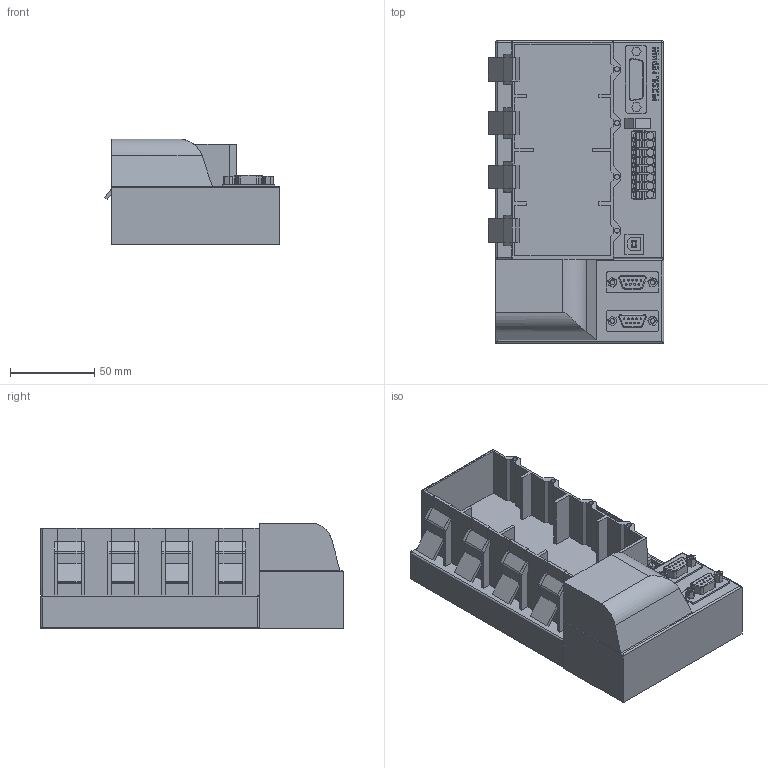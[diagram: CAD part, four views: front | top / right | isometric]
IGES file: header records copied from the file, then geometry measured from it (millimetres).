
Global section: file name: SBC_IGS_PLC_PCD3M5440_2021-04-11.igs; native system: CAD Exchanger; preprocessor: CAD Exchanger 3.9.1 (cadexchanger.com); date: 20210411.203009; units: millimetre
Bounding box: 104.25 x 180 x 63 mm (x, y, z)
Volume: 626216 mm3; surface area: 116089.1 mm2
Topology: 36 solids, 36 shells, 1085 faces, 2789 edges, 1829 vertices
Faces by surface type: plane 741, extrusion 180, cylinder 142, torus 16, sphere 4, bspline 2
Full cylindrical faces by diameter (mm): 1 x18, 2.7 x4, 3 x4, 4.5 x8
